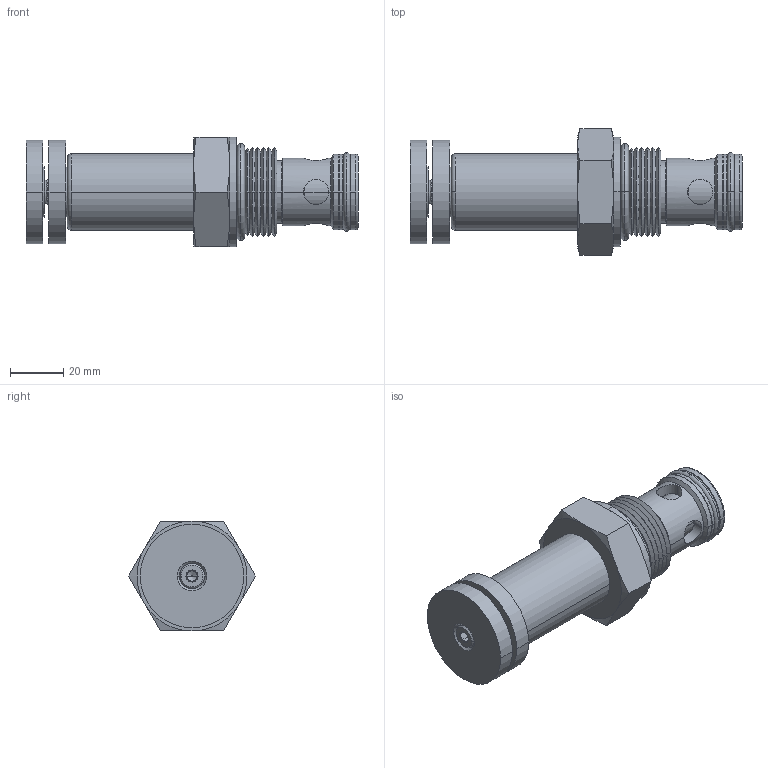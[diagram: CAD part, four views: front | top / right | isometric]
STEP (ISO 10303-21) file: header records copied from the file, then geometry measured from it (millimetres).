
FILE_DESCRIPTION((''),'2;1');
FILE_NAME('U:\Solid model CD\Solid model full\Mechanical\STEP\SJRVR0K-3D Full.stp','2008-07-29T09:59:23',('Dan'),(''),'Autodesk Inventor 9','Autodesk Inventor 9','');
FILE_SCHEMA(('AUTOMOTIVE_DESIGN { 1 0 10303 214 1 1 1 1 }'));
Length unit declared in the file: inch
Products named in the file (7): SJRVR0K-3D Full; SJRVR0K-3D Full1; SJRVR0K-3D Full2; SJRVR0K-3D Full3; SJRVR0K-3D Full4; SJRVR0K-3D Full5; SJRVR0K-3D Full6
Assembly tree (6 placements, depth 2):
  SJRVR0K-3D Full
    SJRVR0K-3D Full1
    SJRVR0K-3D Full2
    SJRVR0K-3D Full3
    SJRVR0K-3D Full4
    SJRVR0K-3D Full5
    SJRVR0K-3D Full6
Bounding box: 124.71 x 47.66 x 41.27 mm (x, y, z)
Volume: 94301.9 mm3; surface area: 26642.1 mm2
Topology: 6 solids, 7 shells, 254 faces, 550 edges, 316 vertices
Faces by surface type: cone 136, cylinder 58, plane 46, torus 12, bspline 2
Entity records: 7289 total; most frequent: CARTESIAN_POINT 1577, DIRECTION 1275, ORIENTED_EDGE 1100, EDGE_CURVE 550, AXIS2_PLACEMENT_3D 540, VERTEX_POINT 316, EDGE_LOOP 280, CIRCLE 275
